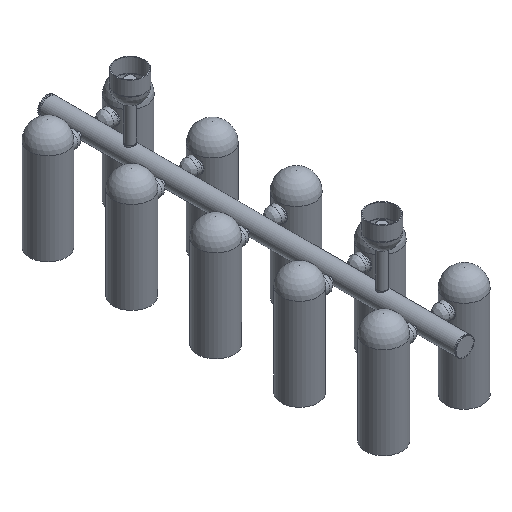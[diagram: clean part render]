
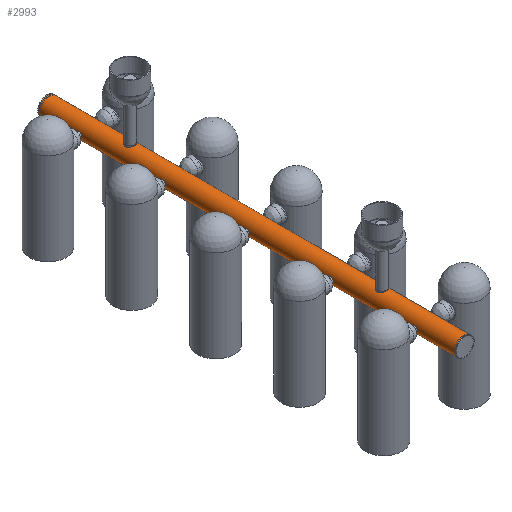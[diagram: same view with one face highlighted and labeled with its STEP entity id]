
A CAD part, isometric view. The second image highlights one B-rep face of the part: STEP entity #2993.
In plain terms, the highlighted cylindrical face has radius 25 mm (diameter 50 mm), a full revolution.
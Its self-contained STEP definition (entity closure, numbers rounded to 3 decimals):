
#279=LINE('',#4882,#382);
#382=VECTOR('',#3823,25.);
#485=CYLINDRICAL_SURFACE('',#3336,25.);
#586=FACE_OUTER_BOUND('',#845,.T.);
#845=EDGE_LOOP('',(#2073,#2074,#2075,#2076));
#1136=CIRCLE('',#3333,25.);
#1137=CIRCLE('',#3335,25.);
#1388=VERTEX_POINT('',#4876);
#1389=VERTEX_POINT('',#4879);
#1664=EDGE_CURVE('',#1388,#1388,#1136,.T.);
#1665=EDGE_CURVE('',#1389,#1389,#1137,.T.);
#1666=EDGE_CURVE('',#1388,#1389,#279,.T.);
#2073=ORIENTED_EDGE('',*,*,#1664,.F.);
#2074=ORIENTED_EDGE('',*,*,#1666,.T.);
#2075=ORIENTED_EDGE('',*,*,#1665,.F.);
#2076=ORIENTED_EDGE('',*,*,#1666,.F.);
#2993=ADVANCED_FACE('',(#586),#485,.T.);
#3333=AXIS2_PLACEMENT_3D('',#4877,#3815,#3816);
#3335=AXIS2_PLACEMENT_3D('',#4880,#3819,#3820);
#3336=AXIS2_PLACEMENT_3D('',#4881,#3821,#3822);
#3815=DIRECTION('center_axis',(0.,-1.,0.));
#3816=DIRECTION('ref_axis',(-1.,0.,0.));
#3819=DIRECTION('center_axis',(0.,1.,0.));
#3820=DIRECTION('ref_axis',(-1.,0.,0.));
#3821=DIRECTION('center_axis',(0.,-1.,0.));
#3822=DIRECTION('ref_axis',(-1.,0.,0.));
#3823=DIRECTION('',(0.,1.,0.));
#4876=CARTESIAN_POINT('',(25.,-567.5,223.));
#4877=CARTESIAN_POINT('Origin',(0.,-567.5,223.));
#4879=CARTESIAN_POINT('',(25.,567.5,223.));
#4880=CARTESIAN_POINT('Origin',(0.,567.5,223.));
#4881=CARTESIAN_POINT('Origin',(0.,567.5,223.));
#4882=CARTESIAN_POINT('',(25.,567.5,223.));
